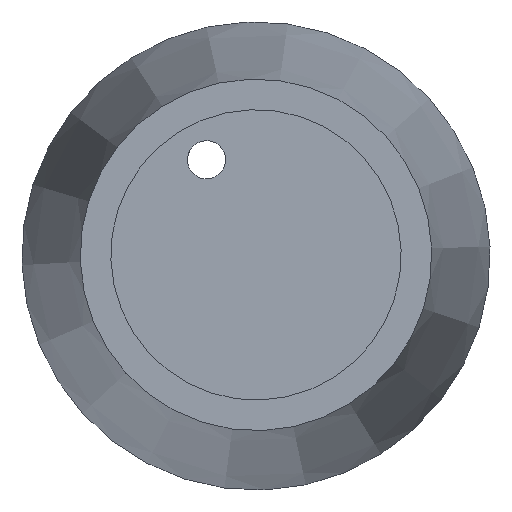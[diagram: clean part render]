
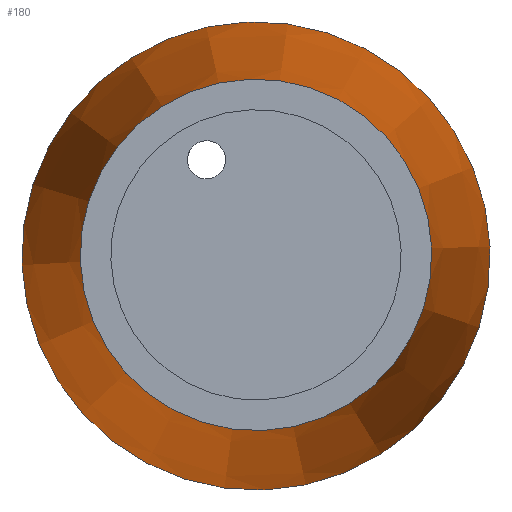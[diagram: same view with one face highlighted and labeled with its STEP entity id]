
A CAD part, top view. The second image highlights one B-rep face of the part: STEP entity #180.
In plain terms, the highlighted conical face has half-angle 5.222 degrees and reference radius 17.192 mm.
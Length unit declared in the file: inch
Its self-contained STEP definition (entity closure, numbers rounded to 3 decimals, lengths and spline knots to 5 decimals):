
#55=CARTESIAN_POINT('',(-0.72949,0.23368,1.18));
#56=VERTEX_POINT('',#55);
#57=CARTESIAN_POINT('',(0.,0.,1.18));
#58=DIRECTION('',(0.,0.,-1.));
#59=DIRECTION('',(-0.952,0.305,0.));
#60=AXIS2_PLACEMENT_3D('',#57,#58,#59);
#61=CIRCLE('',#60,0.766);
#62=EDGE_CURVE('',#56,#56,#61,.T.);
#154=CARTESIAN_POINT('',(-0.54759,0.17541,3.27));
#155=VERTEX_POINT('',#154);
#156=CARTESIAN_POINT('',(0.,0.,3.27));
#157=DIRECTION('',(0.,0.,-1.));
#158=DIRECTION('',(-0.952,0.305,0.));
#159=AXIS2_PLACEMENT_3D('',#156,#157,#158);
#160=CIRCLE('',#159,0.575);
#161=EDGE_CURVE('',#155,#155,#160,.T.);
#169=CARTESIAN_POINT('',(0.,0.,2.15566));
#170=DIRECTION('',(0.,0.,-1.0));
#171=DIRECTION('',(-0.952,0.305,0.));
#172=AXIS2_PLACEMENT_3D('',#169,#170,#171);
#173=CONICAL_SURFACE('',#172,0.67684,5.222);
#174=ORIENTED_EDGE('',*,*,#161,.T.);
#175=EDGE_LOOP('',(#174));
#176=FACE_OUTER_BOUND('',#175,.T.);
#177=ORIENTED_EDGE('',*,*,#62,.F.);
#178=EDGE_LOOP('',(#177));
#179=FACE_BOUND('',#178,.T.);
#180=ADVANCED_FACE('',(#176,#179),#173,.T.);
